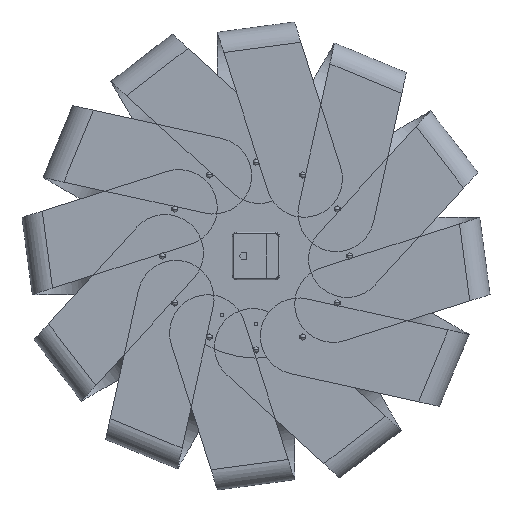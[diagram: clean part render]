
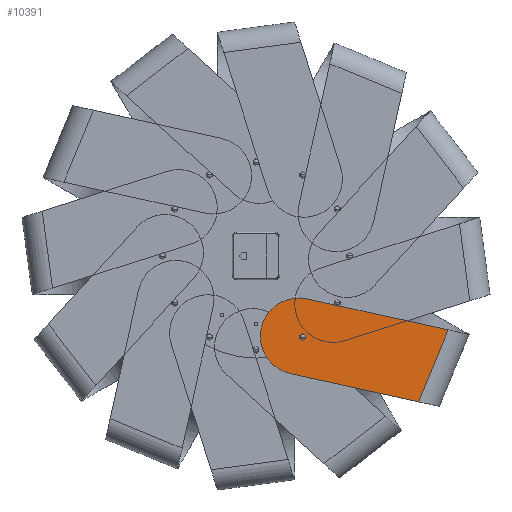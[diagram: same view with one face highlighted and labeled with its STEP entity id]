
A CAD part, left-side view. The second image highlights one B-rep face of the part: STEP entity #10391.
In plain terms, the highlighted planar face has unit normal (0, 0, 1) by its records, which use the part's own axes.
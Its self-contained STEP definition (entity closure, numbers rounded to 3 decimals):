
#2 = DIRECTION ( 'NONE',  ( 1., 0., 0. ) ) ;
#199 = EDGE_CURVE ( 'NONE', #6394, #3641, #8946, .T. ) ;
#346 = CARTESIAN_POINT ( 'NONE',  ( 94.333, 148.55, 0. ) ) ;
#453 = LINE ( 'NONE', #1507, #4007 ) ;
#806 = ORIENTED_EDGE ( 'NONE', *, *, #199, .T. ) ;
#833 = ORIENTED_EDGE ( 'NONE', *, *, #8755, .T. ) ;
#909 = DIRECTION ( 'NONE',  ( 0., 0., 1. ) ) ;
#1433 = DIRECTION ( 'NONE',  ( -0.302, -0.953, 0. ) ) ;
#1507 = CARTESIAN_POINT ( 'NONE',  ( 3.747, 160.636, 0. ) ) ;
#1728 = PLANE ( 'NONE',  #10368 ) ;
#2387 = DIRECTION ( 'NONE',  ( -0.991, 0.132, 0. ) ) ;
#3641 = VERTEX_POINT ( 'NONE', #3937 ) ;
#3767 = CIRCLE ( 'NONE', #7127, 45. ) ;
#3937 = CARTESIAN_POINT ( 'NONE',  ( 94.333, 148.55, 0. ) ) ;
#3973 = DIRECTION ( 'NONE',  ( 0.302, 0.953, 0. ) ) ;
#4007 = VECTOR ( 'NONE', #2387, 1000. ) ;
#4453 = VECTOR ( 'NONE', #3973, 1000. ) ;
#4558 = DIRECTION ( 'NONE',  ( 0., 0., 1. ) ) ;
#5352 = CARTESIAN_POINT ( 'NONE',  ( 42.894, -13.607, 0. ) ) ;
#6283 = EDGE_CURVE ( 'NONE', #10864, #6394, #3767, .T. ) ;
#6394 = VERTEX_POINT ( 'NONE', #5352 ) ;
#7074 = FACE_OUTER_BOUND ( 'NONE', #9382, .T. ) ;
#7127 = AXIS2_PLACEMENT_3D ( 'NONE', #9916, #4558, #2 ) ;
#7223 = CARTESIAN_POINT ( 'NONE',  ( 0., 0., 0. ) ) ;
#7302 = ORIENTED_EDGE ( 'NONE', *, *, #6283, .T. ) ;
#8039 = EDGE_CURVE ( 'NONE', #8981, #10864, #8522, .T. ) ;
#8522 = LINE ( 'NONE', #11392, #9650 ) ;
#8755 = EDGE_CURVE ( 'NONE', #3641, #8981, #453, .T. ) ;
#8946 = LINE ( 'NONE', #346, #4453 ) ;
#8981 = VERTEX_POINT ( 'NONE', #10677 ) ;
#9382 = EDGE_LOOP ( 'NONE', ( #7302, #806, #833, #9626 ) ) ;
#9626 = ORIENTED_EDGE ( 'NONE', *, *, #8039, .T. ) ;
#9650 = VECTOR ( 'NONE', #1433, 1000. ) ;
#9916 = CARTESIAN_POINT ( 'NONE',  ( 0., 0., 0. ) ) ;
#10368 = AXIS2_PLACEMENT_3D ( 'NONE', #7223, #909, #11609 ) ;
#10391 = ADVANCED_FACE ( 'NONE', ( #7074 ), #1728, .T. ) ;
#10582 = CARTESIAN_POINT ( 'NONE',  ( -42.894, 13.607, 0. ) ) ;
#10677 = CARTESIAN_POINT ( 'NONE',  ( 3.747, 160.636, 0. ) ) ;
#10864 = VERTEX_POINT ( 'NONE', #10582 ) ;
#11392 = CARTESIAN_POINT ( 'NONE',  ( -42.894, 13.607, 0. ) ) ;
#11609 = DIRECTION ( 'NONE',  ( 1., 0., 0. ) ) ;
